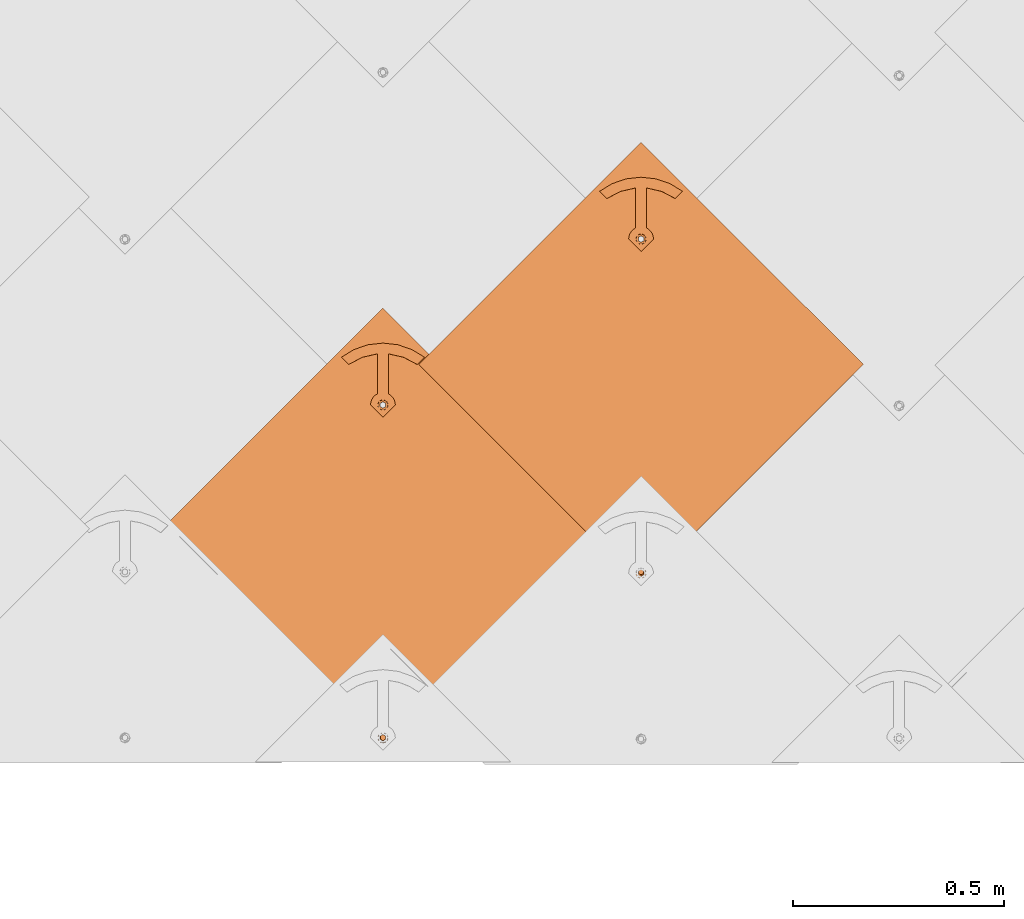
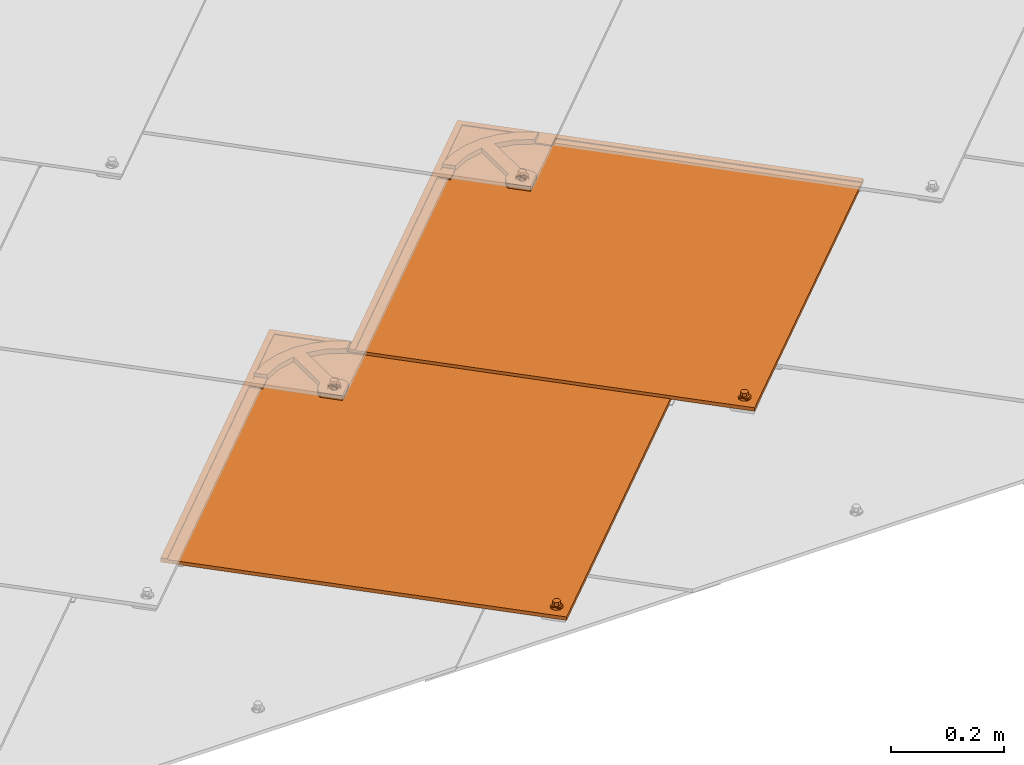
# One storey, part 73 of 133: 2 proxies.
"""IFC2X3 building model written with IfcOpenShell, lengths in millimetres."""

from ifc_helpers import new_model, entity, si_unit, converted_unit, derived_unit, direction, frame, origin, place, context, subcontext, project, spatial, faceted_brep, source, transform, mapped, material, material_list, type_object, type_shapes, element, save


model = new_model("IFC2X3")

# Units and contexts
model_context = context("Model", 3, precision=0.01, world=origin(), true_north=direction((6.12303176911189e-17, 1.0)))
body_context = subcontext(model_context, "Body", "Model", "MODEL_VIEW")
ifc_project = project(units=[si_unit("LENGTHUNIT", "METRE", prefix="MILLI"), si_unit("AREAUNIT", "SQUARE_METRE"), si_unit("VOLUMEUNIT", "CUBIC_METRE"), converted_unit("PLANEANGLEUNIT", "DEGREE", entity("IfcRatioMeasure", 0.0174532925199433), si_unit("PLANEANGLEUNIT", "RADIAN"), dimensions=[0, 0, 0, 0, 0, 0, 0]), si_unit("MASSUNIT", "GRAM", prefix="KILO"), derived_unit("MASSDENSITYUNIT", [(si_unit("MASSUNIT", "GRAM", prefix="KILO"), 1), (si_unit("LENGTHUNIT", "METRE"), -3)]), si_unit("TIMEUNIT", "SECOND"), si_unit("FREQUENCYUNIT", "HERTZ"), si_unit("THERMODYNAMICTEMPERATUREUNIT", "DEGREE_CELSIUS"), derived_unit("THERMALTRANSMITTANCEUNIT", [(si_unit("MASSUNIT", "GRAM", prefix="KILO"), 1), (si_unit("THERMODYNAMICTEMPERATUREUNIT", "KELVIN"), -1), (si_unit("TIMEUNIT", "SECOND"), -3)]), derived_unit("VOLUMETRICFLOWRATEUNIT", [(si_unit("LENGTHUNIT", "METRE"), 3), (si_unit("TIMEUNIT", "SECOND"), -1)]), si_unit("ELECTRICCURRENTUNIT", "AMPERE"), si_unit("ELECTRICVOLTAGEUNIT", "VOLT"), si_unit("POWERUNIT", "WATT"), si_unit("FORCEUNIT", "NEWTON", prefix="KILO"), si_unit("ILLUMINANCEUNIT", "LUX"), si_unit("LUMINOUSFLUXUNIT", "LUMEN"), si_unit("LUMINOUSINTENSITYUNIT", "CANDELA"), derived_unit("USERDEFINED", [(si_unit("MASSUNIT", "GRAM", prefix="KILO"), -1), (si_unit("LENGTHUNIT", "METRE"), -2), (si_unit("TIMEUNIT", "SECOND"), 3), (si_unit("LUMINOUSFLUXUNIT", "LUMEN"), 1)]), derived_unit("LINEARVELOCITYUNIT", [(si_unit("LENGTHUNIT", "METRE"), 1), (si_unit("TIMEUNIT", "SECOND"), -1)]), si_unit("PRESSUREUNIT", "PASCAL"), derived_unit("USERDEFINED", [(si_unit("LENGTHUNIT", "METRE"), -2), (si_unit("MASSUNIT", "GRAM", prefix="KILO"), 1), (si_unit("TIMEUNIT", "SECOND"), -2)])], contexts=[model_context])

# Site, building, storey
site_placement = place(None, origin())
site = spatial("IfcSite", under=ifc_project, at=site_placement, Name="Default", CompositionType="ELEMENT")
building_placement = place(site_placement, origin())
building = spatial("IfcBuilding", under=site, at=building_placement, CompositionType="ELEMENT")
storey_placement = place(building_placement, origin())
storey = spatial("IfcBuildingStorey", under=building, at=storey_placement, Name="Level 1", CompositionType="ELEMENT", Elevation=0.0)

# Proxies
ifc_material_1 = material(Name="Rubber - Sunstyle - Black")
ifc_material_2 = material(Name="Glass - Sunstyle - Tainted Black")
ifc_material_list_1 = material_list([ifc_material_1, ifc_material_2])
ifc_material_list_2 = material_list([ifc_material_1, ifc_material_2])
building_element_proxy_type = type_object("IfcBuildingElementProxyType", Name="Non PV Shingle - Black", PredefinedType="NOTDEFINED", material=ifc_material_list_2)
shared_shape = source(origin(), body_context, "Body", "Brep", [
    faceted_brep([(0.0, -485.159313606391, 4.00636906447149), (-5.77420283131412, -488.492583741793, 4.062193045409), (-5.77420283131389, -488.124274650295, 26.0540623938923), (0.0, -484.791004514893, 25.9982384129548), (-5.77420283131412, -495.159124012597, 4.17384100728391), (-5.7742028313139, -494.790814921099, 26.1657103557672), (0.0, -498.492394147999, 4.2296649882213), (0.0, -498.1240850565, 26.2215343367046), (5.77420283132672, -495.159124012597, 4.17384100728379), (5.77420283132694, -494.790814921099, 26.1657103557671), (5.77420283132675, -488.492583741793, 4.06219304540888), (5.77420283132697, -488.124274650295, 26.0540623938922), (-8.60370416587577, -500.060042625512, 26.2539568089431), (0.0, -503.623313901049, 26.3136327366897), (-12.1674751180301, -491.457544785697, 26.1098863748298), (-8.60370416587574, -482.855046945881, 25.9658159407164), (0.0, -479.291775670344, 25.9061400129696), (8.60370416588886, -482.855046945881, 25.9658159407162), (12.1674751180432, -491.457544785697, 26.1098863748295), (8.60370416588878, -500.060042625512, 26.2539568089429), (-11.3242446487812, -489.162467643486, 28.4227283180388), (-9.75647455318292, -491.386529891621, 30.3502110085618), (0.0, -484.073454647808, 30.9829114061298), (0.0, -482.832957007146, 30.4025647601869), (0.0, -480.675406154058, 29.3931896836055), (0.0, -503.067269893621, 27.5886907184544), (0.0, -502.123693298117, 29.7523951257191), (0.0, -498.67431759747, 31.227439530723), (0.0, -479.804811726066, 27.19910242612), (-6.32324569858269, -495.024101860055, 31.1663074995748), (-6.32324569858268, -487.723670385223, 31.0440434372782), (11.3242446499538, -493.673887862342, 28.4982833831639), (9.84888015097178, -492.460936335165, 30.2713428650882), (6.32324569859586, -487.723670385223, 31.0440434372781), (6.32324569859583, -495.024101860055, 31.1663074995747), (-6.32324569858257, -494.890073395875, 39.1691956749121), (0.0, -498.54028913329, 39.2303277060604), (0.0, -491.239857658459, 39.1080636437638), (-6.32324569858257, -487.589641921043, 39.0469316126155), (6.32324569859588, -494.890073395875, 39.169195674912), (6.32324569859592, -487.589641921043, 39.0469316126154), (0.0, -483.939426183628, 38.9857995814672), (0.0, -491.825853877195, 4.11801702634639)], [[[0, 1, 2, 3]], [[1, 4, 5, 2]], [[4, 6, 7, 5]], [[6, 8, 9, 7]], [[8, 10, 11, 9]], [[10, 0, 3, 11]], [[12, 7, 13]], [[7, 12, 5]], [[14, 5, 12]], [[5, 14, 2]], [[15, 2, 14]], [[3, 2, 15]], [[15, 16, 3]], [[16, 17, 3]], [[11, 3, 17]], [[11, 17, 18]], [[9, 11, 18]], [[18, 19, 9]], [[7, 9, 19]], [[19, 13, 7]], [[20, 14, 12]], [[21, 22, 23, 24]], [[24, 20, 21]], [[25, 20, 12]], [[26, 27, 21]], [[15, 14, 20]], [[12, 13, 25]], [[20, 28, 15]], [[28, 20, 24]], [[21, 27, 29]], [[21, 29, 30]], [[26, 21, 20]], [[20, 25, 26]], [[15, 28, 16]], [[21, 30, 22]], [[31, 18, 17]], [[28, 31, 17]], [[32, 27, 26]], [[26, 31, 32]], [[26, 25, 31]], [[25, 19, 31]], [[17, 16, 28]], [[31, 19, 18]], [[24, 31, 28]], [[33, 34, 32]], [[23, 22, 33]], [[24, 32, 31]], [[27, 32, 34]], [[32, 23, 33]], [[19, 25, 13]], [[32, 24, 23]], [[35, 36, 37]], [[37, 38, 35]], [[36, 39, 37]], [[40, 37, 39]], [[37, 40, 41]], [[37, 41, 38]], [[42, 6, 4]], [[4, 1, 42]], [[1, 0, 42]], [[42, 8, 6]], [[0, 10, 42]], [[8, 42, 10]], [[22, 30, 38, 41]], [[30, 29, 35, 38]], [[29, 27, 36, 35]], [[27, 34, 39, 36]], [[34, 33, 40, 39]], [[33, 22, 41, 40]]]),
    faceted_brep([(0.0, 284.789208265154, 20.3195200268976), (0.0, 289.288576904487, 20.2441667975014), (-8.60370416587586, 288.352479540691, 20.259844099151), (8.60370416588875, 288.352479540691, 20.2598440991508), (6.64022859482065, 293.121777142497, 20.1799702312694), (12.1674751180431, 296.954977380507, 20.1157736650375), (6.64022859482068, 300.788177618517, 20.0515770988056), (8.60370416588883, 305.557475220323, 19.9717032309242), (0.0, 304.621377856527, 19.9873805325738), (0.0, 309.12074649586, 19.9120273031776), (-8.60370416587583, 305.557475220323, 19.9717032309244), (-6.64022859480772, 300.788177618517, 20.0515770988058), (-12.1674751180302, 296.954977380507, 20.1157736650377), (-6.64022859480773, 293.121777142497, 20.1799702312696), (-6.6402282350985, 300.520254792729, 4.05382046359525), (0.0, 304.35345482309, 3.9896239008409), (-6.64022823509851, 292.853854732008, 4.18221358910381), (0.0, 289.020654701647, 4.24641015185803), (6.64022823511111, 292.853854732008, 4.18221358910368), (6.64022823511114, 300.520254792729, 4.05382046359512), (-8.60370416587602, 288.084556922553, 4.26208746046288), (0.0, 284.521285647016, 4.32176338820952), (-12.1674751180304, 296.687054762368, 4.11801702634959), (-8.603704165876, 305.289552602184, 3.97394659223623), (0.0, 308.852823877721, 3.91427066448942), (8.60370416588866, 305.289552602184, 3.97394659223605), (12.167475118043, 296.687054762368, 4.11801702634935), (8.60370416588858, 288.084556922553, 4.26208746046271)], [[[0, 1, 2]], [[1, 0, 3]], [[3, 4, 1]], [[4, 3, 5]], [[6, 4, 5]], [[5, 7, 6]], [[7, 8, 6]], [[8, 7, 9]], [[8, 9, 10]], [[10, 11, 8]], [[12, 11, 10]], [[2, 13, 12]], [[12, 13, 11]], [[13, 2, 1]], [[8, 11, 14, 15]], [[11, 13, 16, 14]], [[13, 1, 17, 16]], [[1, 4, 18, 17]], [[4, 6, 19, 18]], [[6, 8, 15, 19]], [[20, 17, 21]], [[17, 20, 16]], [[22, 16, 20]], [[14, 16, 22]], [[23, 14, 22]], [[15, 14, 23]], [[23, 24, 15]], [[24, 25, 15]], [[19, 15, 25]], [[19, 25, 26]], [[26, 18, 19]], [[26, 27, 18]], [[17, 18, 27]], [[27, 21, 17]], [[24, 23, 10, 9]], [[10, 23, 22, 12]], [[20, 21, 0, 2]], [[20, 2, 12, 22]], [[21, 27, 3, 0]], [[3, 27, 26, 5]], [[25, 24, 9, 7]], [[25, 7, 5, 26]]]),
    faceted_brep([(518.347125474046, -8.50591218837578, 16.4460771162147), (526.831811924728, -0.0212257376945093, 16.3039797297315), (526.831811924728, 0.00389200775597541, 17.8037694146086), (518.347125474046, -8.48079444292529, 17.9458668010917), (0.000322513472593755, 509.695546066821, 7.76749207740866), (-518.346480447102, -8.50591218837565, 16.4460771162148), (-526.831166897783, -0.021225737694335, 16.3039797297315), (0.000322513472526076, 526.662539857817, 7.48333714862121), (0.000322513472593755, 526.687657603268, 8.98312683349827), (-526.831166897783, 0.00389200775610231, 17.8037694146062), (-518.346480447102, -8.48079444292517, 17.9458668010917), (0.000322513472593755, 509.720663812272, 9.26728176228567)], [[[0, 1, 2, 3]], [[1, 0, 4, 5, 6, 7]], [[2, 1, 7, 8]], [[3, 2, 8, 9, 10, 11]], [[0, 3, 11, 4]], [[5, 10, 9, 6]], [[8, 7, 6, 9]], [[4, 11, 10, 5]]]),
    faceted_brep([(0.000322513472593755, 526.662539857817, 7.48333714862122), (-3.10582854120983, 308.054627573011, 11.1444757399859), (0.0, 308.46346032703, 11.1376288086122), (-6.0, 306.855990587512, 11.1645499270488), (3.10582854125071, 308.054627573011, 11.1444757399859), (6.0, 306.855990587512, 11.1645499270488), (8.4852813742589, 304.949234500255, 11.1964833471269), (10.3923048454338, 302.464301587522, 11.2380997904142), (-8.48528137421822, 304.949234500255, 11.1964833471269), (-10.3923048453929, 302.464301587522, 11.2380997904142), (-11.5911099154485, 299.570535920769, 11.2865631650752), (-526.831166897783, -0.0212257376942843, 16.3039797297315), (11.5911099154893, 299.570535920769, 11.2865631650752), (526.831811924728, -0.021225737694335, 16.3039797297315), (-12.0, 296.465142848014, 11.3385707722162), (-11.5911099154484, 293.359749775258, 11.3905783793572), (-10.392304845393, 290.465984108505, 11.4390417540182), (-8.48528137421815, 287.981051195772, 11.4806581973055), (-6.0, 286.074295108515, 11.5125916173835), (-3.10582854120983, 284.875658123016, 11.5326658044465), (-2.07055236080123, -483.623303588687, 24.4031112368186), (-4.0, -484.422394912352, 24.4164940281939), (-5.65685424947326, -485.693565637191, 24.4377829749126), (-6.92820323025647, -487.350187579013, 24.4655272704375), (-7.72740661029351, -489.279364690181, 24.4978361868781), (-8.0, -491.349626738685, 24.5325079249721), (-7.72740661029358, -493.419888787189, 24.5671796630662), (0.000322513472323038, -526.704991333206, 25.1246223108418), (-6.92820323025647, -495.349065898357, 24.5994885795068), (-5.65685424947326, -497.005687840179, 24.6272328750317), (-4.0, -498.276858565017, 24.6485218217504), (-2.0705523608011, -499.075949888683, 24.6619046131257), (0.0, -499.348505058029, 24.6664692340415), (2.07055236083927, -499.075949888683, 24.6619046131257), (4.0, -498.276858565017, 24.6485218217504), (5.65685424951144, -497.005687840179, 24.6272328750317), (6.92820323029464, -495.349065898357, 24.5994885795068), (7.72740661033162, -493.419888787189, 24.5671796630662), (12.0, 296.465142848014, 11.3385707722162), (11.5911099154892, 293.359749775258, 11.3905783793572), (10.3923048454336, 290.465984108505, 11.4390417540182), (8.4852813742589, 287.981051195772, 11.4806581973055), (6.0, 286.074295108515, 11.5125916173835), (3.10582854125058, 284.875658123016, 11.5326658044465), (2.07055236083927, -483.623303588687, 24.4031112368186), (4.0, -484.422394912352, 24.4164940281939), (5.65685424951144, -485.69356563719, 24.4377829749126), (8.0, -491.349626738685, 24.5325079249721), (7.72740661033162, -489.279364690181, 24.4978361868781), (6.92820323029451, -487.350187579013, 24.4655272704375), (0.0, 284.466825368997, 11.5395127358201), (0.0, -483.350748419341, 24.3985466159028), (-526.831166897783, -0.146814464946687, 8.80503130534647), (-6.92820323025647, -487.475776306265, 16.9665788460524), (-7.72740661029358, -489.404953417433, 16.9988877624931), (-5.65685424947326, -485.819154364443, 16.9388345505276), (-8.0, -491.475215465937, 17.0335595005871), (-7.72740661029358, -493.545477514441, 17.0682312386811), (0.000322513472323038, -526.830580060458, 17.6256738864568), (-4.0, -484.547983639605, 16.9175456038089), (-2.07055236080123, -483.748892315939, 16.9041628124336), (-3.10582854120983, 284.750069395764, 4.03371738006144), (-6.0, 285.948706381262, 4.01364319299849), (-8.48528137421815, 287.85546246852, 3.98170977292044), (-10.392304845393, 290.340395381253, 3.94009332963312), (-11.5911099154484, 293.234161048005, 3.89162995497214), (-12.0, 296.339554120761, 3.83962234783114), (-11.5911099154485, 299.444947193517, 3.78761474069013), (0.000322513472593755, 526.536951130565, -0.0156112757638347), (-10.3923048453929, 302.338712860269, 3.73915136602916), (-8.48528137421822, 304.823645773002, 3.69753492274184), (-6.0, 306.73040186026, 3.66560150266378), (-3.10582854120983, 307.929038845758, 3.64552731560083), (0.0, 308.337871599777, 3.63868038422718), (3.10582854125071, 307.929038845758, 3.64552731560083), (6.0, 306.73040186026, 3.66560150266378), (8.4852813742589, 304.823645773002, 3.69753492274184), (10.3923048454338, 302.338712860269, 3.73915136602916), (11.5911099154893, 299.444947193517, 3.78761474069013), (526.831811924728, -0.146814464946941, 8.80503130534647), (7.72740661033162, -493.545477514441, 17.0682312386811), (8.0, -491.475215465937, 17.0335595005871), (7.72740661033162, -489.404953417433, 16.9988877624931), (6.92820323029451, -487.475776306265, 16.9665788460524), (5.65685424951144, -485.819154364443, 16.9388345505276), (4.0, -484.547983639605, 16.9175456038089), (2.07055236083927, -483.748892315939, 16.9041628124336), (3.10582854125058, 284.750069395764, 4.03371738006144), (6.0, 285.948706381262, 4.01364319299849), (12.0, 296.339554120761, 3.83962234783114), (11.5911099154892, 293.234161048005, 3.89162995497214), (10.3923048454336, 290.340395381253, 3.94009332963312), (8.4852813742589, 287.85546246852, 3.98170977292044), (0.0, 284.341236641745, 4.04056431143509), (0.0, -483.476337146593, 16.8995981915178), (-6.92820323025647, -495.474654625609, 17.1005401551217), (-5.65685424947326, -497.131276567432, 17.1282844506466), (-4.0, -498.40244729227, 17.1495733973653), (-2.0705523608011, -499.201538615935, 17.1629561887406), (0.0, -499.474093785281, 17.1675208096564), (2.07055236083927, -499.201538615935, 17.1629561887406), (4.0, -498.40244729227, 17.1495733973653), (5.65685424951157, -497.131276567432, 17.1282844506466), (6.92820323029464, -495.474654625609, 17.1005401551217)], [[[0, 1, 2]], [[1, 0, 3]], [[0, 2, 4]], [[4, 5, 0]], [[5, 6, 0]], [[0, 6, 7]], [[8, 3, 0]], [[9, 8, 0]], [[9, 0, 10]], [[10, 0, 11]], [[12, 0, 7]], [[12, 13, 0]], [[11, 14, 10]], [[14, 11, 15]], [[16, 15, 11]], [[16, 11, 17]], [[18, 17, 11]], [[11, 19, 18]], [[19, 11, 20]], [[21, 20, 11]], [[11, 22, 21]], [[22, 11, 23]], [[23, 11, 24]], [[25, 24, 11]], [[25, 11, 26]], [[26, 11, 27]], [[27, 28, 26]], [[29, 28, 27]], [[30, 29, 27]], [[31, 30, 27]], [[27, 32, 31]], [[32, 27, 33]], [[34, 33, 27]], [[34, 27, 35]], [[36, 35, 27]], [[37, 36, 27]], [[37, 27, 13]], [[12, 38, 13]], [[39, 13, 38]], [[13, 39, 40]], [[13, 40, 41]], [[41, 42, 13]], [[42, 43, 13]], [[13, 43, 44]], [[45, 13, 44]], [[46, 13, 45]], [[47, 37, 13]], [[48, 47, 13]], [[49, 48, 13]], [[46, 49, 13]], [[20, 50, 19]], [[51, 50, 20]], [[44, 50, 51]], [[43, 50, 44]], [[52, 53, 54]], [[53, 52, 55]], [[52, 54, 56]], [[56, 57, 52]], [[52, 57, 58]], [[59, 55, 52]], [[60, 59, 52]], [[60, 52, 61]], [[61, 52, 62]], [[63, 62, 52]], [[64, 63, 52]], [[65, 64, 52]], [[66, 65, 52]], [[66, 52, 67]], [[52, 68, 67]], [[69, 67, 68]], [[70, 69, 68]], [[68, 71, 70]], [[71, 68, 72]], [[72, 68, 73]], [[74, 73, 68]], [[74, 68, 75]], [[76, 75, 68]], [[68, 77, 76]], [[77, 68, 78]], [[68, 79, 78]], [[58, 80, 79]], [[81, 79, 80]], [[81, 82, 79]], [[82, 83, 79]], [[84, 79, 83]], [[79, 84, 85]], [[85, 86, 79]], [[87, 79, 86]], [[87, 88, 79]], [[89, 78, 79]], [[79, 90, 89]], [[90, 79, 91]], [[92, 91, 79]], [[92, 79, 88]], [[93, 60, 61]], [[93, 86, 94]], [[94, 60, 93]], [[87, 86, 93]], [[58, 57, 95]], [[96, 58, 95]], [[96, 97, 58]], [[97, 98, 58]], [[99, 58, 98]], [[58, 99, 100]], [[58, 100, 101]], [[101, 102, 58]], [[102, 103, 58]], [[103, 80, 58]], [[11, 0, 68, 52]], [[27, 11, 52, 58]], [[13, 27, 58, 79]], [[0, 13, 79, 68]], [[25, 56, 54, 24]], [[24, 54, 53, 23]], [[21, 22, 55, 59]], [[55, 22, 23, 53]], [[20, 21, 59, 60]], [[20, 60, 94, 51]], [[51, 94, 86, 44]], [[44, 86, 85, 45]], [[49, 46, 84, 83]], [[84, 46, 45, 85]], [[48, 49, 83, 82]], [[48, 82, 81, 47]], [[47, 81, 80, 37]], [[37, 80, 103, 36]], [[34, 35, 102, 101]], [[102, 35, 36, 103]], [[33, 34, 101, 100]], [[33, 100, 99, 32]], [[32, 99, 98, 31]], [[31, 98, 97, 30]], [[28, 29, 96, 95]], [[96, 29, 30, 97]], [[26, 28, 95, 57]], [[26, 57, 56, 25]], [[14, 66, 67, 10]], [[10, 67, 69, 9]], [[3, 8, 70, 71]], [[70, 8, 9, 69]], [[1, 3, 71, 72]], [[1, 72, 73, 2]], [[2, 73, 74, 4]], [[4, 74, 75, 5]], [[7, 6, 76, 77]], [[76, 6, 5, 75]], [[12, 7, 77, 78]], [[12, 78, 89, 38]], [[38, 89, 90, 39]], [[39, 90, 91, 40]], [[42, 41, 92, 88]], [[40, 91, 92, 41]], [[87, 43, 42, 88]], [[43, 87, 93, 50]], [[50, 93, 61, 19]], [[19, 61, 62, 18]], [[16, 17, 63, 64]], [[63, 17, 18, 62]], [[15, 16, 64, 65]], [[15, 65, 66, 14]]]),
    faceted_brep([(-103.640919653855, 371.082989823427, 12.5892580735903), (-81.5635806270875, 393.15723338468, 12.2195694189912), (-98.1147183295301, 409.705441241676, 11.9424281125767), (-106.2656930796, 403.014562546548, 12.0544836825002), (-113.962762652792, 395.806279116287, 12.1752044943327), (-121.16572423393, 388.605337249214, 12.295802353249), (121.446435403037, 388.886009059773, 12.2911017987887), (110.715435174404, 399.614000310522, 12.1114346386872), (104.744439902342, 405.287275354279, 12.0164213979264), (98.4920378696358, 410.648923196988, 11.9266271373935), (98.074476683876, 410.231479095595, 11.933618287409), (98.234751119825, 410.108922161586, 11.9356708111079), (98.3948723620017, 409.986165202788, 11.9377266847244), (81.6917048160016, 393.285339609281, 12.2174239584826), (103.769043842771, 371.211096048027, 12.5871126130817), (-23.2046504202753, 315.000563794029, 21.029550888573), (-8.48528137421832, 305.451589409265, 21.1894724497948), (-18.7041061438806, 319.633569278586, 20.951959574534), (-10.392304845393, 302.966656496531, 21.2310888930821), (-26.5842195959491, 309.496413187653, 21.1217317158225), (-11.5911099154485, 300.072890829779, 21.2795522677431), (-28.6795527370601, 303.387013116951, 21.2240489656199), (-12.0, 296.967497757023, 21.3315598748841), (-29.3894280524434, 296.967497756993, 21.3315598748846), (-11.5911099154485, 293.862104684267, 21.3835674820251), (-10.392304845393, 290.968339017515, 21.4320308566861), (-8.48528137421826, 288.483406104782, 21.4736472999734), (0.0, 267.58219039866, 21.8236906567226), (-6.0, 286.576650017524, 21.5055807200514), (-3.10582854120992, 285.378013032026, 21.5256549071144), (0.0, 284.969180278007, 21.532501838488), (3.10582854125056, 285.378013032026, 21.5256549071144), (6.0, 286.576650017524, 21.5055807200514), (8.48528137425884, 288.483406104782, 21.4736472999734), (29.389428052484, 296.967497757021, 21.3315598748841), (10.3923048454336, 290.968339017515, 21.4320308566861), (11.5911099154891, 293.862104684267, 21.3835674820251), (12.0, 296.967497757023, 21.3315598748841), (28.6795527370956, 303.387013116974, 21.2240489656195), (11.5911099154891, 300.072890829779, 21.2795522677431), (26.5842195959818, 309.49641318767, 21.1217317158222), (10.3923048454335, 302.966656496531, 21.2310888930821), (23.2046504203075, 315.000563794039, 21.0295508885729), (8.48528137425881, 305.451589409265, 21.1894724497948), (18.7041061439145, 319.633569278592, 20.9519595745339), (6.0, 307.358345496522, 21.1575390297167), (13.3000000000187, 323.171617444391, 20.8927060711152), (3.10582854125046, 308.55698248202, 21.1374648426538), (0.0, 308.965815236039, 21.1306179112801), (-13.2999999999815, 323.171617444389, 20.8927060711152), (-13.2999999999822, 418.050603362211, 19.3037191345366), (13.3000000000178, 418.050603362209, 19.3037191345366), (0.0, 443.522216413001, 18.8771329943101), (34.9852699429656, 439.689674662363, 18.9413185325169), (48.8881158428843, 409.917561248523, 19.4399273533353), (68.3106161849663, 428.373889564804, 19.1308297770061), (81.1868897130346, 392.906184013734, 19.7248255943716), (98.3948723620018, 410.11175393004, 19.4366751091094), (-34.9852699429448, 439.689674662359, 18.941318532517), (-48.8881158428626, 409.917561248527, 19.4399273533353), (-68.3106161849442, 428.373889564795, 19.1308297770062), (-81.1868897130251, 392.906184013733, 19.7248255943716), (-98.3948723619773, 410.111753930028, 19.4366751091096), (-6.0, 307.358345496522, 21.1575390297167), (-3.10582854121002, 308.55698248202, 21.1374648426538), (0.0, 267.414738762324, 11.8250927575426), (0.0, 284.80172864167, 11.533903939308), (3.10582854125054, 285.210561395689, 11.5270570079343), (-3.10582854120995, 285.210561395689, 11.5270570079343), (6.0, 286.409198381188, 11.5069828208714), (8.48528137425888, 288.315954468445, 11.4750494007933), (29.389428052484, 296.800046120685, 11.332961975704), (-6.0, 286.409198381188, 11.5069828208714), (-8.48528137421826, 288.315954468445, 11.4750494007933), (-29.3894280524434, 296.800046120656, 11.3329619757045), (-10.392304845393, 290.800887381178, 11.433432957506), (-11.5911099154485, 293.694653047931, 11.384969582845), (-12.0, 296.800046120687, 11.332961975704), (-28.6795527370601, 303.219561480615, 11.2254510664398), (-11.5911099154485, 299.905439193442, 11.280954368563), (-26.5842195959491, 309.328961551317, 11.1231338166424), (-10.392304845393, 302.799204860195, 11.232490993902), (-23.2046504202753, 314.833112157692, 11.030952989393), (-8.48528137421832, 305.284137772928, 11.1908745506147), (-18.7041061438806, 319.466117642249, 10.9533616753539), (-6.0, 307.190893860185, 11.1589411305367), (-13.2999999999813, 323.004165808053, 10.8941081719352), (-3.10582854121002, 308.389530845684, 11.1388669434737), (0.0, 308.798363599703, 11.1320200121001), (13.3000000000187, 323.004165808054, 10.8941081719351), (13.3000000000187, 417.883151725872, 9.30512123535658), (-13.2999999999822, 417.883151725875, 9.30512123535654), (-0.199443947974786, 443.35464169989, 8.87853715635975), (-35.1150635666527, 439.493384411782, 8.94320360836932), (-48.8881158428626, 409.75010961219, 9.44132945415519), (-68.3708539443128, 428.178324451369, 9.13270270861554), (-81.5627248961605, 393.11622608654, 9.71990561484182), (-81.1868897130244, 392.738732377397, 9.72622769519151), (-98.1143736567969, 409.663842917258, 9.44277420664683), (-106.2656930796, 402.972699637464, 9.5548342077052), (-103.640919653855, 371.041126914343, 10.0896085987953), (-113.962762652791, 395.764416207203, 9.67555501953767), (-121.16572423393, 388.56347434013, 9.79615287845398), (-98.3948723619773, 409.944302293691, 9.43807720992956), (34.7256001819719, 439.579582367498, 8.94176000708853), (48.8881158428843, 409.750109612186, 9.44132945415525), (68.0092206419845, 428.346649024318, 9.12988369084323), (81.6917048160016, 393.243476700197, 9.71777448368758), (98.0744766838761, 410.189616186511, 9.43396881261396), (104.744439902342, 405.245412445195, 9.51677192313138), (98.4920378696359, 410.607060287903, 9.42697766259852), (110.715435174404, 399.572137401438, 9.61178516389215), (103.769043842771, 371.169233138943, 10.0874631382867), (121.446435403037, 388.844146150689, 9.7914523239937), (81.1868897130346, 392.738732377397, 9.7262276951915), (3.10582854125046, 308.389530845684, 11.1388669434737), (6.0, 307.190893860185, 11.1589411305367), (18.7041061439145, 319.466117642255, 10.9533616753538), (8.48528137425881, 305.284137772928, 11.1908745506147), (23.2046504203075, 314.833112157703, 11.0309529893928), (10.3923048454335, 302.799204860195, 11.232490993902), (26.5842195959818, 309.328961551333, 11.1231338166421), (11.5911099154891, 299.905439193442, 11.280954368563), (28.6795527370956, 303.219561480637, 11.2254510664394), (12.0, 296.800046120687, 11.332961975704), (10.3923048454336, 290.800887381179, 11.433432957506), (11.5911099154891, 293.694653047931, 11.384969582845)], [[[0, 1, 2, 3, 4, 5]], [[6, 7, 8, 9, 10, 11, 12, 13, 14]], [[15, 16, 17]], [[18, 16, 15]], [[19, 18, 15]], [[20, 18, 19]], [[19, 21, 20]], [[21, 22, 20]], [[22, 21, 23]], [[24, 22, 23]], [[25, 24, 23]], [[25, 23, 26]], [[23, 27, 26]], [[28, 26, 27]], [[28, 27, 29]], [[27, 30, 29]], [[30, 27, 31]], [[31, 27, 32]], [[33, 32, 27]], [[33, 27, 34]], [[34, 35, 33]], [[36, 35, 34]], [[37, 36, 34]], [[34, 38, 37]], [[39, 37, 38]], [[38, 40, 39]], [[40, 41, 39]], [[41, 40, 42]], [[43, 41, 42]], [[42, 44, 43]], [[45, 43, 44]], [[44, 46, 45]], [[45, 46, 47]], [[47, 46, 48]], [[46, 49, 48]], [[46, 50, 49]], [[46, 51, 50]], [[52, 50, 51]], [[51, 53, 52]], [[51, 54, 53]], [[53, 54, 55]], [[54, 56, 55]], [[56, 57, 55]], [[58, 50, 52]], [[50, 58, 59]], [[60, 59, 58]], [[60, 61, 59]], [[61, 60, 62]], [[63, 49, 17]], [[63, 64, 49]], [[49, 64, 48]], [[63, 17, 16]], [[65, 66, 67]], [[66, 65, 68]], [[65, 67, 69]], [[69, 70, 65]], [[65, 70, 71]], [[72, 68, 65]], [[72, 65, 73]], [[73, 65, 74]], [[74, 75, 73]], [[75, 74, 76]], [[76, 74, 77]], [[78, 77, 74]], [[79, 77, 78]], [[78, 80, 79]], [[79, 80, 81]], [[80, 82, 81]], [[83, 81, 82]], [[84, 83, 82]], [[84, 85, 83]], [[86, 85, 84]], [[86, 87, 85]], [[88, 87, 86]], [[89, 88, 86]], [[89, 86, 90]], [[91, 90, 86]], [[91, 92, 90]], [[92, 91, 93]], [[94, 93, 91]], [[93, 94, 95]], [[94, 96, 95]], [[94, 97, 96]], [[98, 95, 96]], [[99, 98, 96]], [[96, 100, 99]], [[99, 100, 101]], [[102, 101, 100]], [[95, 98, 103]], [[104, 90, 92]], [[90, 104, 105]], [[106, 105, 104]], [[107, 105, 106]], [[106, 108, 107]], [[108, 109, 107]], [[109, 108, 110]], [[111, 107, 109]], [[111, 112, 107]], [[113, 112, 111]], [[107, 114, 105]], [[115, 88, 89]], [[116, 115, 89]], [[116, 89, 117]], [[117, 118, 116]], [[119, 118, 117]], [[119, 120, 118]], [[119, 121, 120]], [[121, 122, 120]], [[122, 121, 123]], [[71, 124, 123]], [[124, 122, 123]], [[71, 70, 125]], [[125, 126, 71]], [[126, 124, 71]], [[49, 50, 91, 86]], [[17, 49, 86, 84]], [[15, 17, 84, 82]], [[82, 80, 19, 15]], [[21, 19, 80, 78]], [[23, 21, 78, 74]], [[27, 23, 74, 65]], [[0, 5, 102, 100]], [[34, 27, 65, 71]], [[6, 14, 112, 113]], [[38, 34, 71, 123]], [[40, 38, 123, 121]], [[121, 119, 42, 40]], [[44, 42, 119, 117]], [[46, 44, 117, 89]], [[51, 46, 89, 90]], [[11, 10, 57]], [[108, 106, 10]], [[10, 106, 55]], [[12, 11, 57]], [[57, 10, 55]], [[106, 53, 55]], [[106, 104, 53]], [[52, 104, 92]], [[92, 93, 58]], [[95, 60, 93]], [[52, 92, 58]], [[95, 62, 60]], [[60, 58, 93]], [[62, 95, 103]], [[104, 52, 53]], [[22, 77, 79, 20]], [[20, 79, 81, 18]], [[63, 16, 83, 85]], [[81, 83, 16, 18]], [[64, 63, 85, 87]], [[88, 48, 64, 87]], [[47, 115, 116, 45]], [[45, 116, 118, 43]], [[39, 41, 120, 122]], [[118, 120, 41, 43]], [[37, 39, 122, 124]], [[47, 48, 88, 115]], [[37, 124, 126, 36]], [[36, 126, 125, 35]], [[32, 33, 70, 69]], [[125, 70, 33, 35]], [[31, 32, 69, 67]], [[66, 30, 31, 67]], [[29, 68, 72, 28]], [[28, 72, 73, 26]], [[24, 25, 75, 76]], [[73, 75, 25, 26]], [[22, 24, 76, 77]], [[29, 30, 66, 68]], [[7, 6, 113, 111]], [[7, 111, 109, 8]], [[109, 110, 9, 8]], [[14, 13, 107, 112]], [[1, 0, 100, 96]], [[2, 98, 3]], [[3, 98, 99]], [[99, 101, 4, 3]], [[5, 4, 101, 102]], [[97, 94, 59, 61]], [[91, 50, 59, 94]], [[90, 105, 54, 51]], [[114, 56, 54, 105]], [[10, 9, 110, 108]], [[62, 2, 1]], [[2, 62, 103]], [[61, 62, 1, 97]], [[103, 98, 2]], [[96, 97, 1]], [[57, 56, 114, 107, 13, 12]]]),
])
type_shapes(building_element_proxy_type, [shared_shape])
proxy_1_placement = place(storey_placement, frame((-17764.4246150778, 15073.1445065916, 0.0)))
element("IfcBuildingElementProxy", 1, at=proxy_1_placement, inside=storey, type_object=building_element_proxy_type, material=ifc_material_list_1, Name="Roofing_Panels_SunStyle_Tile_Non-PV-Shingle:Non PV Shingle - Black", ObjectType="Roofing_Panels_SunStyle_Tile_Non-PV-Shingle:Non PV Shingle - Black", context=body_context, shape_type="MappedRepresentation", body=[
    mapped(shared_shape, transform((0.0, 0.0, 0.0), scale=1.0)),
])
ifc_material_list_3 = material_list([ifc_material_1, ifc_material_2])
proxy_2_placement = place(storey_placement, frame((-17152.862554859, 15466.1580315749, 0.0)))
element("IfcBuildingElementProxy", 2, at=proxy_2_placement, inside=storey, type_object=building_element_proxy_type, material=ifc_material_list_3, Name="Roofing_Panels_SunStyle_Tile_Non-PV-Shingle:Non PV Shingle - Black", ObjectType="Roofing_Panels_SunStyle_Tile_Non-PV-Shingle:Non PV Shingle - Black", context=body_context, shape_type="MappedRepresentation", body=[
    mapped(shared_shape, transform((0.0, 0.0, 0.0), scale=1.0)),
])

save(model, "model.ifc")
